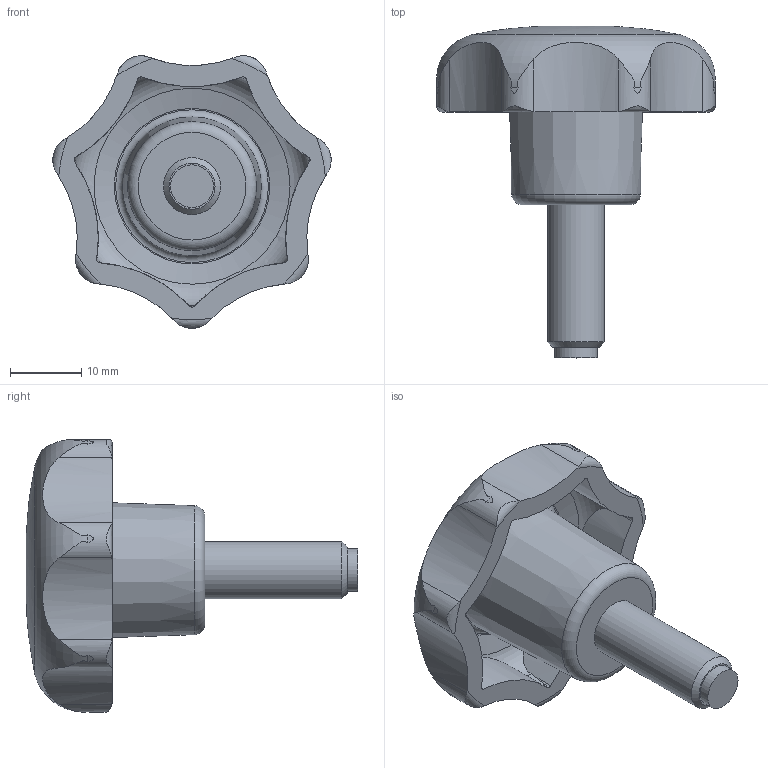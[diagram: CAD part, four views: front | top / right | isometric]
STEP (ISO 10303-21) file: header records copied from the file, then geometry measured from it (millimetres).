
FILE_DESCRIPTION( ( 'STEP AP203' ), '1' );
FILE_NAME( 'C:/Temp/Ganter_Step_05_03_2020/data/2_2/gn6336_10/Star knob GN 6336.10-40-M8-20-MS.stp', '2020-03-05T12:04:11', ( 'License CC BY-ND 4.0' ), ( 'CADENAS' ), ' ', 'PARTsolutions', ' ' );
FILE_SCHEMA( ( 'CONFIG_CONTROL_DESIGN' ) );
Length unit declared in the file: millimetre
Products named in the file (1): _Star knob GN 6336.10-40-M8-20-MS
Bounding box: 39.03 x 46.57 x 38.23 mm (x, y, z)
Volume: 12550.4 mm3; surface area: 5645.9 mm2
Topology: 1 solids, 1 shells, 64 faces, 188 edges, 128 vertices
Faces by surface type: cylinder 30, cone 17, torus 12, plane 4, bspline 1
Full cylindrical faces by diameter (mm): 6 x1, 8 x1
Entity records: 3177 total; most frequent: CARTESIAN_POINT 1616, ORIENTED_EDGE 346, DIRECTION 264, EDGE_CURVE 173, VERTEX_POINT 126, AXIS2_PLACEMENT_3D 118, B_SPLINE_CURVE_WITH_KNOTS 91, EDGE_LOOP 77
